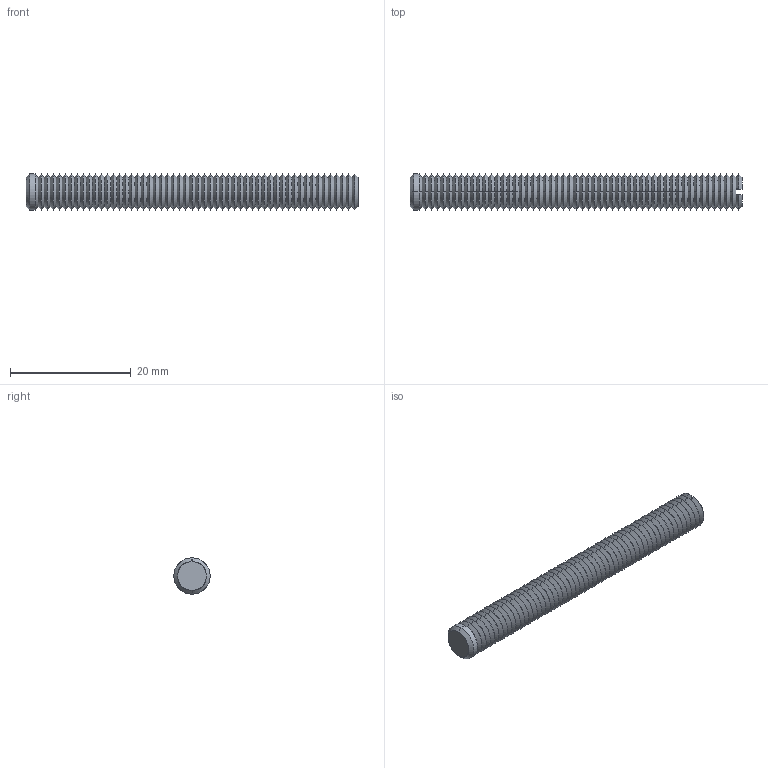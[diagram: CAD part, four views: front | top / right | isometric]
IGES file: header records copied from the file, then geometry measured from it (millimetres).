
Start section: SolidWorks IGES file using analytic representation for surfaces
Global section: file name: C:\Documents and Settings\IANO\Desktop\Temp File\Process pending\EXISTING\34300_v2\34300_v2_20170622_IGES\34300.W0067.igs; native system: SolidWorks 2009; preprocessor: SolidWorks 2009; author: IANO; date: 170622.093700; units: millimetre
Bounding box: 55 x 6 x 6 mm (x, y, z)
Surface area: 1520.1 mm2 (no closed solid volume)
Topology: 0 solids, 0 shells, 224 faces, 960 edges, 960 vertices
Faces by surface type: revolution 218, bspline 6
